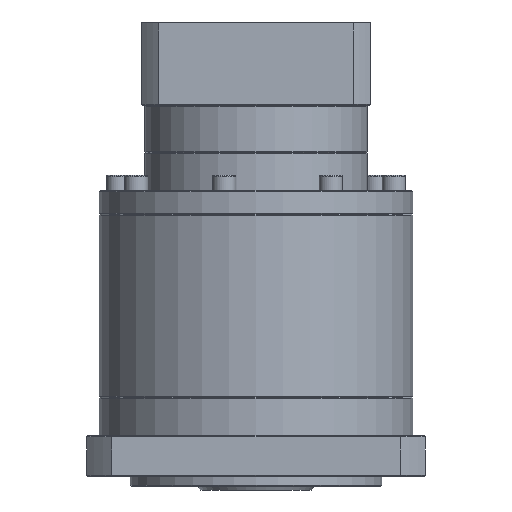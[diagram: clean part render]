
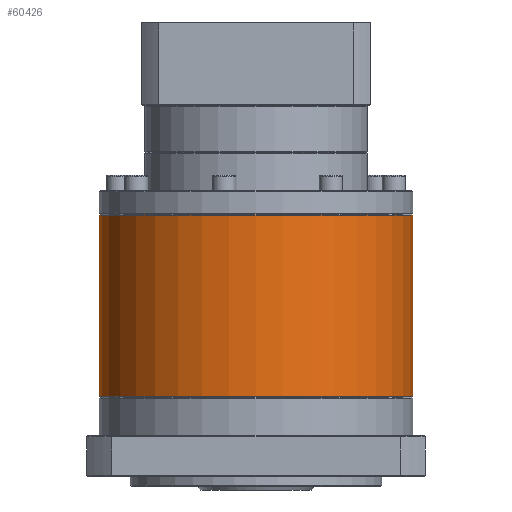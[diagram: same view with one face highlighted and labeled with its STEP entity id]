
A CAD part, front view. The second image highlights one B-rep face of the part: STEP entity #60426.
In plain terms, the highlighted cylindrical face has radius 81 mm (diameter 162 mm), a partial arc.
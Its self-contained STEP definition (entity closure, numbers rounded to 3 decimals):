
#785 = DIRECTION ( 'NONE',  ( 0., 0., -1. ) ) ;
#929 = CIRCLE ( 'NONE', #95862, 81. ) ;
#6198 = LINE ( 'NONE', #33473, #40680 ) ;
#6399 = CARTESIAN_POINT ( 'NONE',  ( -213.469, 99.836, -177.52 ) ) ;
#7094 = AXIS2_PLACEMENT_3D ( 'NONE', #96325, #785, #42451 ) ;
#7457 = CIRCLE ( 'NONE', #82585, 81. ) ;
#7994 = LINE ( 'NONE', #25117, #21164 ) ;
#9971 = CARTESIAN_POINT ( 'NONE',  ( -132.469, 99.836, -84.02 ) ) ;
#10949 = EDGE_CURVE ( 'NONE', #104716, #33485, #7457, .T. ) ;
#13298 = VERTEX_POINT ( 'NONE', #30060 ) ;
#16713 = VERTEX_POINT ( 'NONE', #18114 ) ;
#18114 = CARTESIAN_POINT ( 'NONE',  ( -213.469, 99.836, -84.02 ) ) ;
#19573 = EDGE_LOOP ( 'NONE', ( #120359, #115859, #51926, #94716 ) ) ;
#21164 = VECTOR ( 'NONE', #54516, 1000. ) ;
#25117 = CARTESIAN_POINT ( 'NONE',  ( -213.469, 99.836, -83.52 ) ) ;
#30060 = CARTESIAN_POINT ( 'NONE',  ( -51.469, 99.836, -84.02 ) ) ;
#33473 = CARTESIAN_POINT ( 'NONE',  ( -51.469, 99.836, -83.52 ) ) ;
#33485 = VERTEX_POINT ( 'NONE', #135509 ) ;
#36675 = EDGE_CURVE ( 'NONE', #16713, #104716, #7994, .T. ) ;
#40680 = VECTOR ( 'NONE', #107047, 1000. ) ;
#41196 = CARTESIAN_POINT ( 'NONE',  ( -132.469, 99.836, -177.52 ) ) ;
#42028 = EDGE_CURVE ( 'NONE', #13298, #33485, #6198, .T. ) ;
#42451 = DIRECTION ( 'NONE',  ( -1., 0., 0. ) ) ;
#48324 = FACE_OUTER_BOUND ( 'NONE', #19573, .T. ) ;
#51613 = DIRECTION ( 'NONE',  ( 0., 0., -1. ) ) ;
#51926 = ORIENTED_EDGE ( 'NONE', *, *, #36675, .T. ) ;
#54516 = DIRECTION ( 'NONE',  ( 0., 0., -1. ) ) ;
#60426 = ADVANCED_FACE ( 'NONE', ( #48324 ), #99134, .T. ) ;
#82585 = AXIS2_PLACEMENT_3D ( 'NONE', #41196, #101981, #112993 ) ;
#94716 = ORIENTED_EDGE ( 'NONE', *, *, #10949, .T. ) ;
#95862 = AXIS2_PLACEMENT_3D ( 'NONE', #9971, #51613, #125263 ) ;
#96325 = CARTESIAN_POINT ( 'NONE',  ( -132.469, 99.836, -83.52 ) ) ;
#99134 = CYLINDRICAL_SURFACE ( 'NONE', #7094, 81. ) ;
#101981 = DIRECTION ( 'NONE',  ( 0., 0., 1. ) ) ;
#104716 = VERTEX_POINT ( 'NONE', #6399 ) ;
#107047 = DIRECTION ( 'NONE',  ( 0., 0., -1. ) ) ;
#112993 = DIRECTION ( 'NONE',  ( -1., 0., 0. ) ) ;
#115859 = ORIENTED_EDGE ( 'NONE', *, *, #121890, .T. ) ;
#120359 = ORIENTED_EDGE ( 'NONE', *, *, #42028, .F. ) ;
#121890 = EDGE_CURVE ( 'NONE', #13298, #16713, #929, .T. ) ;
#125263 = DIRECTION ( 'NONE',  ( -1., 0., 0. ) ) ;
#135509 = CARTESIAN_POINT ( 'NONE',  ( -51.469, 99.836, -177.52 ) ) ;
